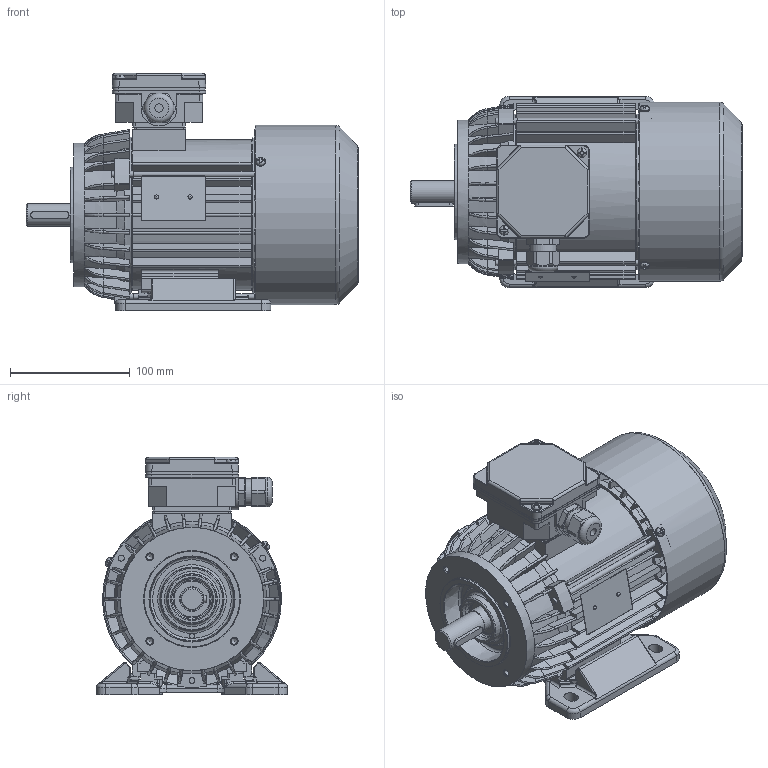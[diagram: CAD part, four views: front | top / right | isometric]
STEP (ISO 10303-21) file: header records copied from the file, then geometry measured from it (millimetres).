
FILE_DESCRIPTION(/* description */ ('Unknown'),/* implementation_level */ '2;1');
FILE_NAME(/* name */ '2SIEL80-6A2',/* time_stamp */ '2021-04-12T15:02:13+02:00',/* author */ ('Unknown'),/* organization */ ('Unknown'),/* preprocessor_version */ 'ST-DEVELOPER v16.7',/* originating_system */ 'Solid Edge',/* authorisation */ 'Unknown');
FILE_SCHEMA (('AUTOMOTIVE_DESIGN {1 0 10303 214 3 1 1}'));
Products named in the file (1): 2SIEL80-6A2
Bounding box: 277.78 x 160 x 198.5 mm (x, y, z)
Volume: 970487.2 mm3; surface area: 538856.2 mm2
Topology: 3 solids, 3 shells, 2837 faces, 8113 edges, 5255 vertices
Faces by surface type: plane 1341, cylinder 868, bspline 256, torus 211, cone 141, sphere 20
Full cylindrical faces by diameter (mm): 2 x2, 2.4 x2, 3.7 x8, 4 x5, 4.5 x1, 4.6 x3, 4.8 x2, 5 x12, 5.5 x3, 6.5 x4, 7 x1, 8 x9, 18.998 x1, 19.298 x1, 19.498 x1, 20.298 x2, 20.398 x2, 20.4 x2, 22.3 x1, 25 x1, 25.497 x1, 25.997 x2, 26.097 x1, 26.997 x1, 28.799 x4, 30 x1, 34 x1, 38.198 x4, 42 x3, 47 x3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
Entity records: 118540 total; most frequent: CARTESIAN_POINT 28921, ORIENTED_EDGE 15452, DIRECTION 14004, EDGE_CURVE 7726, VERTEX_POINT 5103, AXIS2_PLACEMENT_3D 5097, LINE 3810, VECTOR 3810
